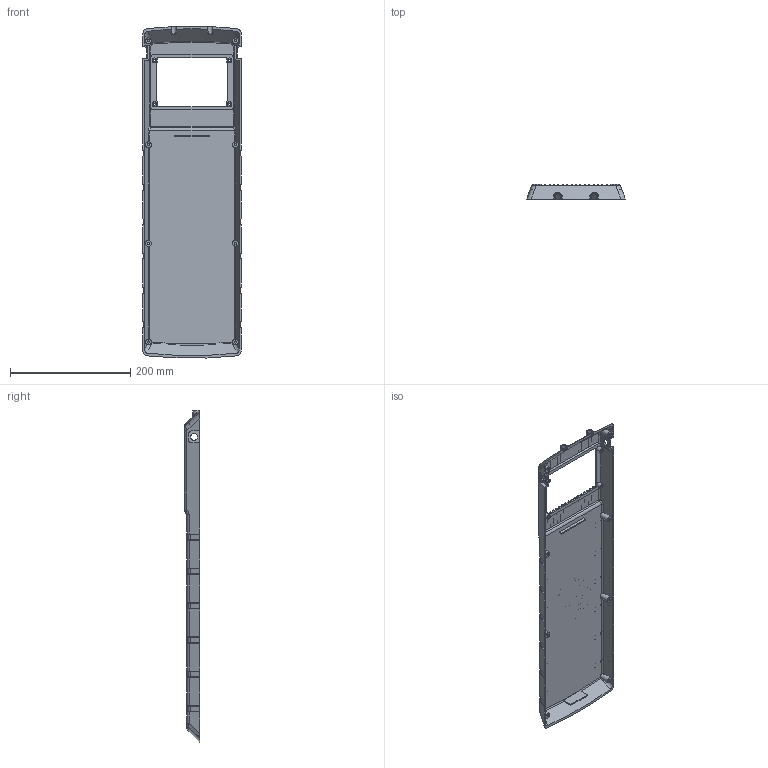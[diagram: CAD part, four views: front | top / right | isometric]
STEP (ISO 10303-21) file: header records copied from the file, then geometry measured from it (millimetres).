
FILE_DESCRIPTION(/* description */ (''),/* implementation_level */ '2;1');
FILE_NAME(/* name */ 'E:\cloudstor\MQ Astrolab\CAD models\LB_project\Battery pack\Evolve GT enclosure.stp',/* time_stamp */ '2019-05-06T13:06:04+10:00',/* author */ ('MQ42926084'),/* organization */ (''),/* preprocessor_version */ 'ST-DEVELOPER v16.5',/* originating_system */ 'Autodesk Inventor 2017',/* authorisation */ '');
FILE_SCHEMA (('AUTOMOTIVE_DESIGN { 1 0 10303 214 3 1 1 }'));
Length unit declared in the file: millimetre
Products named in the file (1): GT_enclosure (MOD)
Bounding box: 164 x 25 x 552.06 mm (x, y, z)
Volume: 288271.8 mm3; surface area: 213411.8 mm2
Topology: 1 solids, 1 shells, 634 faces, 1651 edges, 1040 vertices
Faces by surface type: plane 298, cylinder 212, torus 78, bspline 38, cone 4, sphere 4
Full cylindrical faces by diameter (mm): 3.242 x4, 3.6 x8, 8 x4, 9.8 x8, 80.5 x1, 82.5 x1, 89.5 x1, 91.5 x1
Entity records: 20437 total; most frequent: CARTESIAN_POINT 4708, DIRECTION 3417, ORIENTED_EDGE 3222, EDGE_CURVE 1611, AXIS2_PLACEMENT_3D 1273, VERTEX_POINT 1028, LINE 871, VECTOR 871
